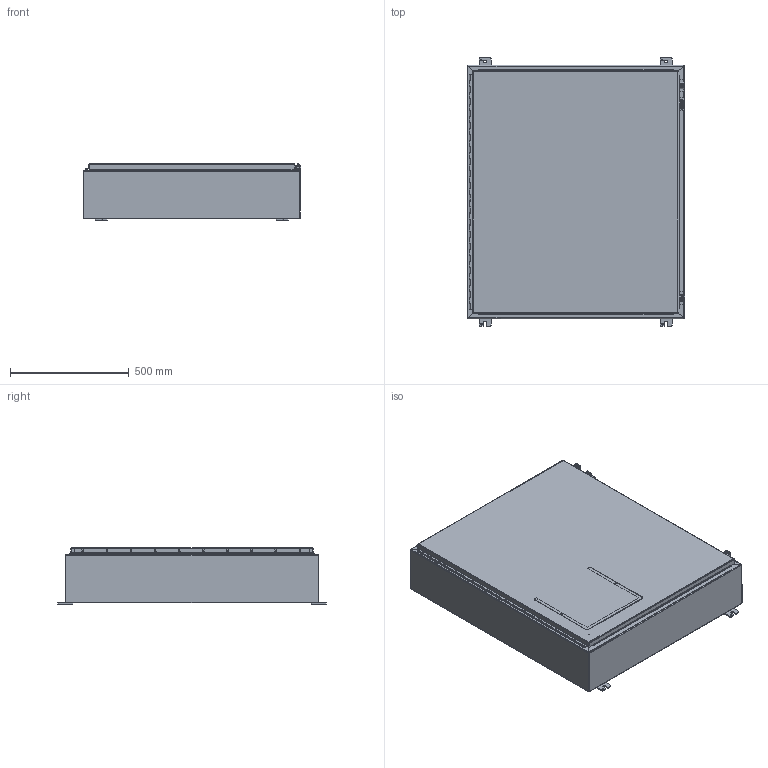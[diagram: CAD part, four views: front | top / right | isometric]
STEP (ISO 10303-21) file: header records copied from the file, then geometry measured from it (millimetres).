
FILE_DESCRIPTION (( 'STEP AP203' ), '1' );
FILE_NAME ('a423608lp.STEP', '2010-08-26T13:18:38', ( 'Hoffman User' ), ( 'Hoffman Enclosures' ), 'SwSTEP 2.0', 'SolidWorks 2009', '' );
FILE_SCHEMA (( 'CONFIG_CONTROL_DESIGN' ));
Products named in the file (23): 89043057_DOOR CLOSED; 22110001; 22132003; 22230001; 22107001; 99411210_Config-Drawing; 87560041; 22101001; 22104006_SL-HHMS 0.25-28x0.875x0.875-N; a423608lp; 22362020; 22285011_default; 22118707_22118701; 22118307; 22112001_AFTER WELD; 89042962; 22351014; 22118007; 87931362_87931362; 23418001; 87932903; 91307100; 22103001_Free
Assembly tree (38 placements, depth 4):
  a423608lp
    23418001
    91307100  x2
      22101001
      22104006_SL-HHMS 0.25-28x0.875x0.875-N
      87560041
      22103001_Free
    87932903  x2
    89043057_DOOR CLOSED
      22118307
      22132003
      22230001  x2
      89042962
        22107001
        22351014
        87931362_87931362  x2
        22118007
        99411210_Config-Drawing
      22112001_AFTER WELD  x8
      22285011_default  x2
      22362020
      22118707_22118701
      22110001  x4
Bounding box: 917.91 x 1130.3 x 236.36 mm (x, y, z)
Volume: 5825056 mm3; surface area: 6321048.5 mm2
Topology: 39 solids, 39 shells, 3495 faces, 9208 edges, 5940 vertices
Faces by surface type: plane 1637, bspline 1171, cylinder 533, torus 94, cone 56, sphere 4
Entity records: 153284 total; most frequent: CARTESIAN_POINT 87632, ORIENTED_EDGE 14854, DIRECTION 9667, EDGE_CURVE 7427, VERTEX_POINT 4844, VECTOR 4709, LINE 4709, EDGE_LOOP 2927
